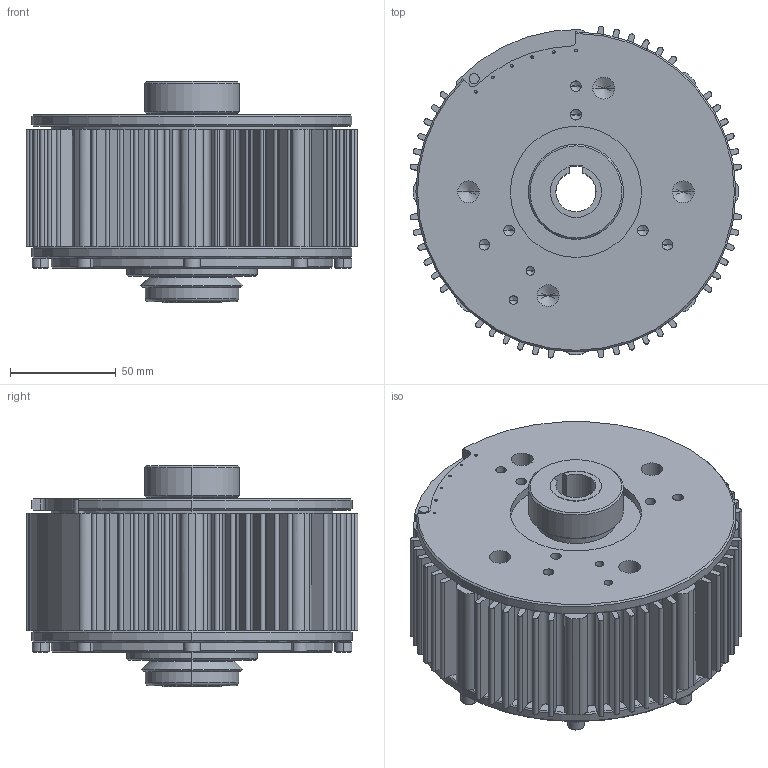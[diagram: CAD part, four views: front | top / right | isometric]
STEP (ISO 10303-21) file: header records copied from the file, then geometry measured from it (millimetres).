
FILE_DESCRIPTION (( 'STEP AP214' ), '1' );
FILE_NAME ('MTL70-19mm CUSTOMER SOLID.STEP', '2015-04-06T15:46:50', ( '' ), ( '' ), 'SwSTEP 2.0', 'SolidWorks 2014', '' );
FILE_SCHEMA (( 'AUTOMOTIVE_DESIGN' ));
Length unit declared in the file: inch
Products named in the file (1): MTL70-19mm CUSTOMER SOLID
Bounding box: 156.93 x 156.93 x 104.65 mm (x, y, z)
Volume: 1247933.7 mm3; surface area: 139264.2 mm2
Topology: 1 solids, 1 shells, 625 faces, 1649 edges, 1010 vertices
Faces by surface type: cylinder 303, plane 236, cone 82, torus 4
Entity records: 19597 total; most frequent: DIRECTION 3687, CARTESIAN_POINT 3245, ORIENTED_EDGE 3218, EDGE_CURVE 1609, AXIS2_PLACEMENT_3D 1452, VERTEX_POINT 1010, CIRCLE 826, LINE 783
